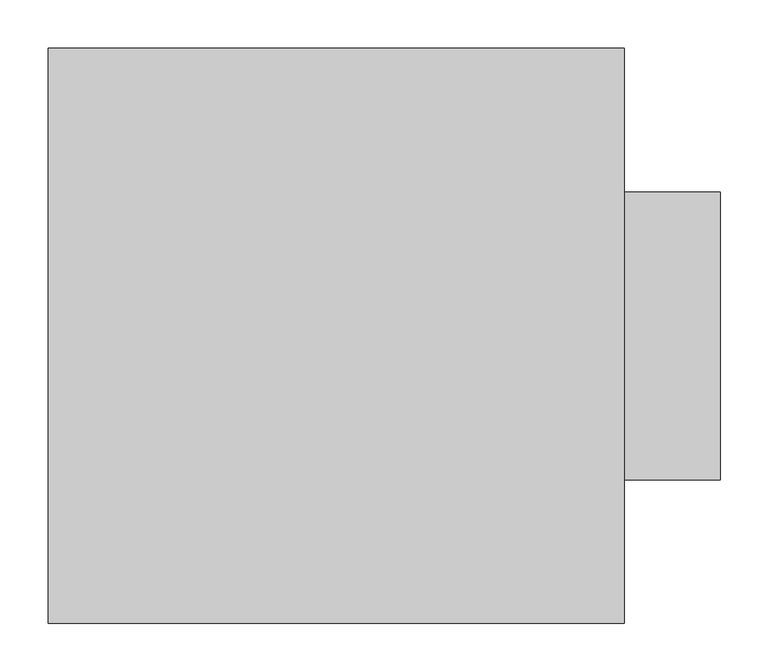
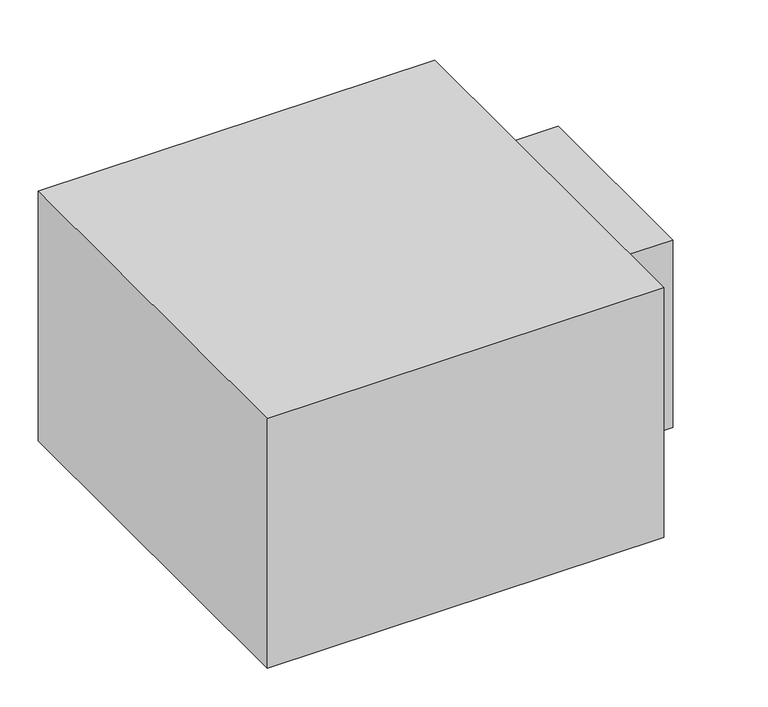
"""IFC4 building model written with IfcOpenShell, lengths in millimetres: duct fitting geometry, BL_Адаптер-СТ_ПР : BL_Адаптер-СТ_ПР."""

from ifc_helpers import new_model, si_unit, frame, origin, place, context, project, spatial, polyline, outline, extrude, source, transform, mapped, element, save


def duct_fitting_603af2c4(model_context):
    return source(origin(), model_context, "Body", "SweptSolid", [
        extrude(outline(polyline([(700.0, 150.0), (700.0, -150.0), (600.0, -150.0), (600.0, 150.0), (700.0, 150.0)])), frame((0.0, 0.0, -150.0), z_axis=(0.0, 0.0, 1.0), x_axis=(1.0, 0.0, 0.0)), (0.0, 0.0, 1.0), 300.0),
        extrude(outline(polyline([(0.0, -300.0), (0.0, 300.0), (600.0, 300.0), (600.0, -300.0), (0.0, -300.0)])), frame((0.0, 0.0, -200.0), z_axis=(0.0, 0.0, 1.0), x_axis=(1.0, 0.0, 0.0)), (0.0, 0.0, 1.0), 400.0),
    ])


if __name__ == "__main__":
    model = new_model("IFC4")
    model_context = context("Model", 3, world=origin())
    ifc_project = project(units=[si_unit("LENGTHUNIT", "METRE", prefix="MILLI")], contexts=[model_context])
    site = spatial("IfcSite", under=ifc_project)
    building = spatial("IfcBuilding", under=site)
    placement = place(None, origin())
    duct_fitting_shape = duct_fitting_603af2c4(model_context)
    element("IfcDuctFitting", 1, ObjectType="BL_Адаптер-СТ_ПР : BL_Адаптер-СТ_ПР", at=placement, inside=building, context=model_context, shape_type="MappedRepresentation", body=[
        mapped(duct_fitting_shape, transform((0.0, 0.0, 0.0), x_axis=(1.0, 0.0, 0.0), y_axis=(0.0, 1.0, 0.0), z_axis=(0.0, 0.0, 1.0))),
    ])
    save(model, "model.ifc")
